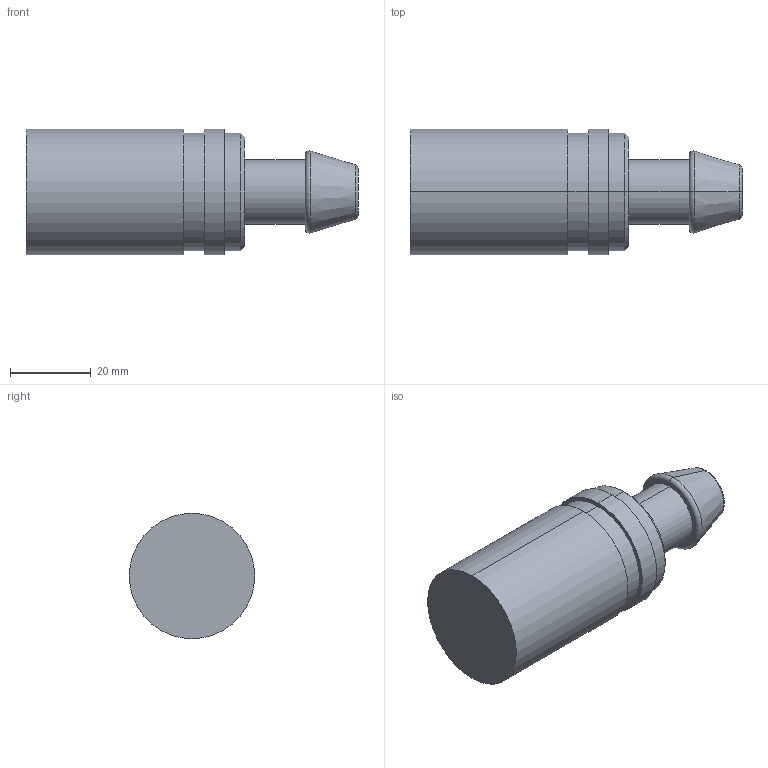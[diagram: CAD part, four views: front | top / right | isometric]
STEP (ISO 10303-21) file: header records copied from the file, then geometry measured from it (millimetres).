
FILE_DESCRIPTION (( 'STEP AP214' ), '1' );
FILE_NAME ('BR601.12 HGB 16.STEP', '2020-12-02T13:59:21', ( '' ), ( '' ), 'SwSTEP 2.0', 'SolidWorks 2018', '' );
FILE_SCHEMA (( 'AUTOMOTIVE_DESIGN' ));
Length unit declared in the file: millimetre
Products named in the file (1): BR601.12 HGB 16
Bounding box: 82 x 31 x 31 mm (x, y, z)
Volume: 45760.9 mm3; surface area: 8332.7 mm2
Topology: 1 solids, 1 shells, 25 faces, 48 edges, 30 vertices
Faces by surface type: cylinder 10, plane 7, cone 4, torus 4
Entity records: 682 total; most frequent: DIRECTION 134, CARTESIAN_POINT 104, ORIENTED_EDGE 96, AXIS2_PLACEMENT_3D 60, EDGE_CURVE 48, CIRCLE 34, VERTEX_POINT 30, EDGE_LOOP 30
